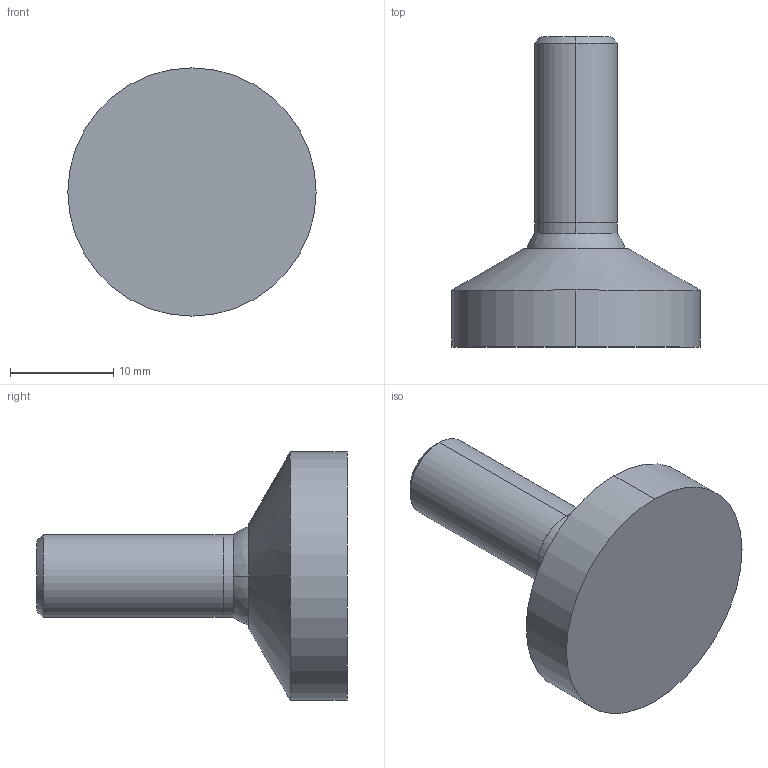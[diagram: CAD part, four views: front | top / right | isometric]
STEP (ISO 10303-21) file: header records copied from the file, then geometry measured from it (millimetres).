
FILE_DESCRIPTION (( 'STEP AP203' ), '1' );
FILE_NAME ('34640.W0018.step', '2011-08-08T09:39:55', ( 'Wixroyd' ), ( 'Wixroyd' ), 'SwSTEP 2.0', 'SolidWorks 2009', '' );
FILE_SCHEMA (( 'CONFIG_CONTROL_DESIGN' ));
Length unit declared in the file: millimetre
Products named in the file (3): 34640.W0018; Part2_3464W018; Part1
Assembly tree (2 placements, depth 2):
  34640.W0018
    Part2_3464W018
    Part1
Bounding box: 24 x 30 x 24 mm (x, y, z)
Volume: 4437.4 mm3; surface area: 2336.7 mm2
Topology: 2 solids, 2 shells, 32 faces, 80 edges, 49 vertices
Faces by surface type: plane 16, cone 6, cylinder 6, sphere 4
Entity records: 1183 total; most frequent: DIRECTION 176, CARTESIAN_POINT 150, ORIENTED_EDGE 138, AXIS2_PLACEMENT_3D 70, EDGE_CURVE 69, VERTEX_POINT 44, LINE 36, VECTOR 36
